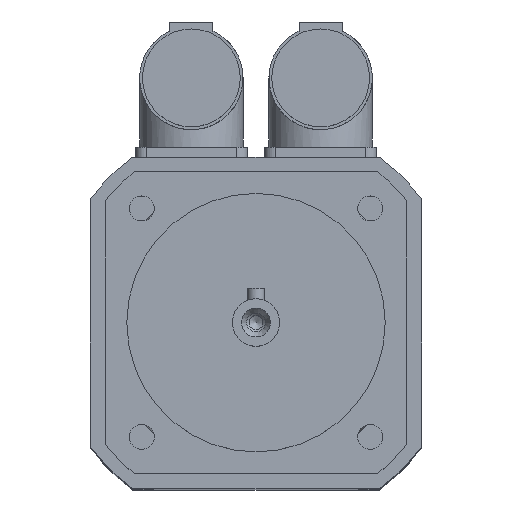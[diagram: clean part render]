
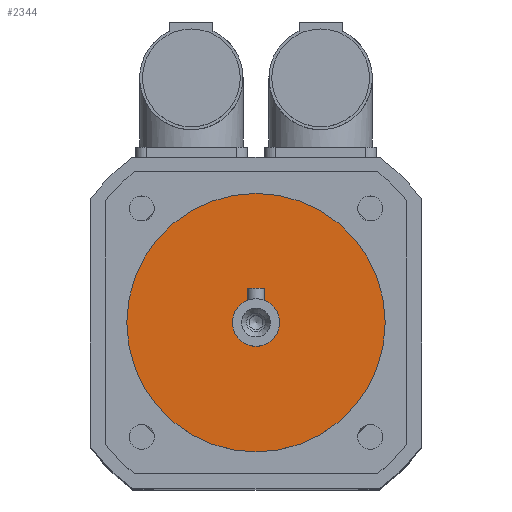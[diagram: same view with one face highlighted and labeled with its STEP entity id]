
A CAD part, top view. The second image highlights one B-rep face of the part: STEP entity #2344.
In plain terms, the highlighted planar face has unit normal (0, 0, 1).
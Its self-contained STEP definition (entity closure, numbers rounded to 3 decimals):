
#472=PLANE('',#2526);
#587=FACE_BOUND('',#805,.T.);
#653=FACE_OUTER_BOUND('',#804,.T.);
#804=EDGE_LOOP('',(#1839));
#805=EDGE_LOOP('',(#1840));
#951=CIRCLE('',#2525,5.5);
#952=CIRCLE('',#2527,30.);
#1114=VERTEX_POINT('',#3730);
#1115=VERTEX_POINT('',#3733);
#1385=EDGE_CURVE('',#1114,#1114,#951,.T.);
#1386=EDGE_CURVE('',#1115,#1115,#952,.T.);
#1839=ORIENTED_EDGE('',*,*,#1386,.F.);
#1840=ORIENTED_EDGE('',*,*,#1385,.T.);
#2344=ADVANCED_FACE('',(#653,#587),#472,.T.);
#2525=AXIS2_PLACEMENT_3D('',#3731,#2946,#2947);
#2526=AXIS2_PLACEMENT_3D('',#3732,#2948,#2949);
#2527=AXIS2_PLACEMENT_3D('',#3734,#2950,#2951);
#2946=DIRECTION('center_axis',(0.,0.,-1.));
#2947=DIRECTION('ref_axis',(1.,0.,0.));
#2948=DIRECTION('center_axis',(0.,0.,1.));
#2949=DIRECTION('ref_axis',(1.,0.,0.));
#2950=DIRECTION('center_axis',(0.,0.,-1.));
#2951=DIRECTION('ref_axis',(1.,0.,0.));
#3730=CARTESIAN_POINT('',(0.,5.5,141.5));
#3731=CARTESIAN_POINT('Origin',(0.,0.,141.5));
#3732=CARTESIAN_POINT('Origin',(0.,30.,141.5));
#3733=CARTESIAN_POINT('',(0.,30.,141.5));
#3734=CARTESIAN_POINT('Origin',(0.,0.,141.5));
